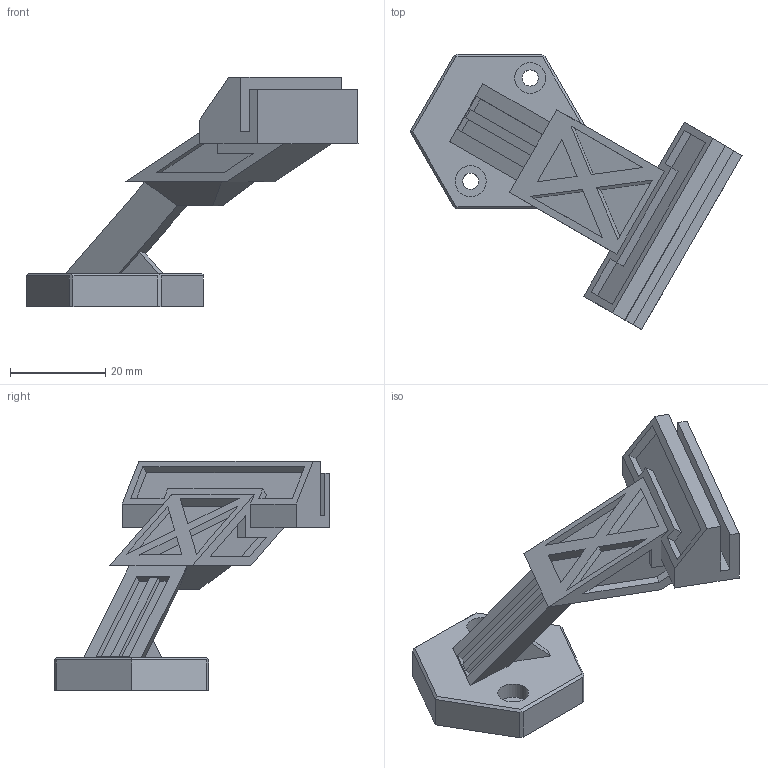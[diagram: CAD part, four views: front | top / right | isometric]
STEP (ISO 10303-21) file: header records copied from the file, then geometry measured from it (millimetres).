
FILE_DESCRIPTION(/* description */ (''),/* implementation_level */ '2;1');
FILE_NAME(/* name */ '/Users/simonhu/OneDrive - FH JOANNEUM/5Semsester/Projekt/3D/turret_final/leg_1.step',/* time_stamp */ '2022-01-27T19:31:24+01:00',/* author */ (''),/* organization */ (''),/* preprocessor_version */ 'ST-DEVELOPER v18.1',/* originating_system */ 'Autodesk Translation Framework v10.13.0.1454',/* authorisation */ '');
FILE_SCHEMA (('AUTOMOTIVE_DESIGN { 1 0 10303 214 3 1 1 }'));
Length unit declared in the file: millimetre
Products named in the file (1): turret_base_jan
Bounding box: 69.66 x 57.8 x 48.21 mm (x, y, z)
Volume: 17086.3 mm3; surface area: 9073.7 mm2
Topology: 1 solids, 1 shells, 100 faces, 251 edges, 165 vertices
Faces by surface type: plane 96, cylinder 4
Full cylindrical faces by diameter (mm): 3.4 x2, 6.5 x2
Entity records: 2957 total; most frequent: CARTESIAN_POINT 517, ORIENTED_EDGE 502, DIRECTION 461, EDGE_CURVE 251, LINE 243, VECTOR 243, VERTEX_POINT 165, EDGE_LOOP 116
